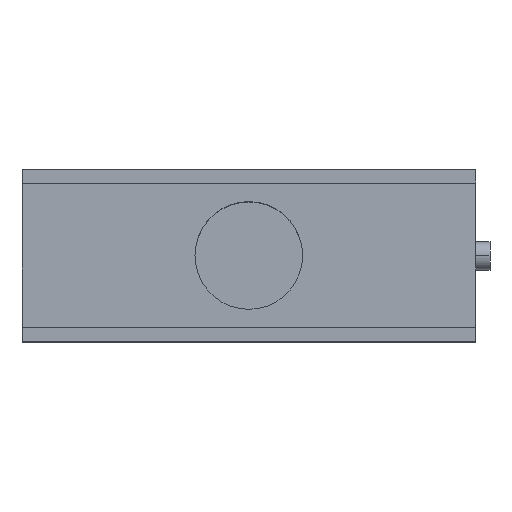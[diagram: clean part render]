
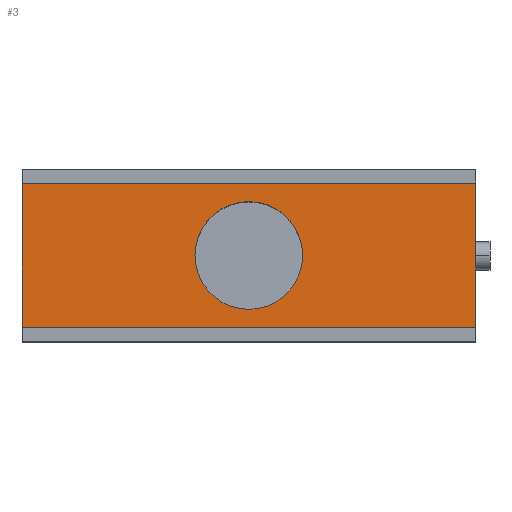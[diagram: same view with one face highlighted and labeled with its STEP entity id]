
A CAD part, top view. The second image highlights one B-rep face of the part: STEP entity #3.
In plain terms, the highlighted planar face has unit normal (0, 0, 1).
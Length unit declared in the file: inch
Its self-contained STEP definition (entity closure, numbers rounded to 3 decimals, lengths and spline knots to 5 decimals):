
#3 = ADVANCED_FACE ( 'NONE', ( #202, #277 ), #275, .F. ) ;
#12 = ORIENTED_EDGE ( 'NONE', *, *, #65, .F. ) ;
#14 = EDGE_LOOP ( 'NONE', ( #152, #18, #12, #44 ) ) ;
#16 = EDGE_CURVE ( 'NONE', #183, #197, #356, .T. ) ;
#18 = ORIENTED_EDGE ( 'NONE', *, *, #39, .F. ) ;
#39 = EDGE_CURVE ( 'NONE', #164, #192, #346, .T. ) ;
#40 = EDGE_LOOP ( 'NONE', ( #43, #63 ) ) ;
#42 = EDGE_CURVE ( 'NONE', #61, #60, #280, .T. ) ;
#43 = ORIENTED_EDGE ( 'NONE', *, *, #16, .F. ) ;
#44 = ORIENTED_EDGE ( 'NONE', *, *, #42, .T. ) ;
#49 = EDGE_CURVE ( 'NONE', #60, #192, #319, .T. ) ;
#60 = VERTEX_POINT ( 'NONE', #496 ) ;
#61 = VERTEX_POINT ( 'NONE', #499 ) ;
#63 = ORIENTED_EDGE ( 'NONE', *, *, #188, .F. ) ;
#65 = EDGE_CURVE ( 'NONE', #61, #164, #396, .T. ) ;
#152 = ORIENTED_EDGE ( 'NONE', *, *, #49, .T. ) ;
#164 = VERTEX_POINT ( 'NONE', #813 ) ;
#183 = VERTEX_POINT ( 'NONE', #714 ) ;
#188 = EDGE_CURVE ( 'NONE', #197, #183, #711, .T. ) ;
#192 = VERTEX_POINT ( 'NONE', #746 ) ;
#197 = VERTEX_POINT ( 'NONE', #790 ) ;
#202 = FACE_OUTER_BOUND ( 'NONE', #14, .T. ) ;
#275 = PLANE ( 'NONE',  #276 ) ;
#276 = AXIS2_PLACEMENT_3D ( 'NONE', #310, #309, #308 ) ;
#277 = FACE_BOUND ( 'NONE', #40, .T. ) ;
#278 = VECTOR ( 'NONE', #368, 39.37008 ) ;
#279 = CARTESIAN_POINT ( 'NONE',  ( 0., 1.25, 5.5 ) ) ;
#280 = LINE ( 'NONE', #279, #278 ) ;
#308 = DIRECTION ( 'NONE',  ( -1., 0., 0. ) ) ;
#309 = DIRECTION ( 'NONE',  ( 0., 0., -1. ) ) ;
#310 = CARTESIAN_POINT ( 'NONE',  ( -3.29752, 1.25, 5.5 ) ) ;
#316 = DIRECTION ( 'NONE',  ( 1., 0., 0. ) ) ;
#317 = VECTOR ( 'NONE', #316, 39.37008 ) ;
#318 = CARTESIAN_POINT ( 'NONE',  ( -3.29752, 0., 5.5 ) ) ;
#319 = LINE ( 'NONE', #318, #317 ) ;
#343 = DIRECTION ( 'NONE',  ( 0., -1., 0. ) ) ;
#344 = VECTOR ( 'NONE', #343, 39.37008 ) ;
#345 = CARTESIAN_POINT ( 'NONE',  ( 3.95, 1.25, 5.5 ) ) ;
#346 = LINE ( 'NONE', #345, #344 ) ;
#352 = DIRECTION ( 'NONE',  ( 1., 0., 0. ) ) ;
#353 = DIRECTION ( 'NONE',  ( 0., 0., 1. ) ) ;
#354 = CARTESIAN_POINT ( 'NONE',  ( 1.975, 0.625, 5.5 ) ) ;
#355 = AXIS2_PLACEMENT_3D ( 'NONE', #354, #353, #352 ) ;
#356 = CIRCLE ( 'NONE', #355, 0.46875 ) ;
#368 = DIRECTION ( 'NONE',  ( 0., -1., 0. ) ) ;
#382 = CARTESIAN_POINT ( 'NONE',  ( -3.29752, 1.25, 5.5 ) ) ;
#396 = LINE ( 'NONE', #382, #423 ) ;
#422 = DIRECTION ( 'NONE',  ( 1., 0., 0. ) ) ;
#423 = VECTOR ( 'NONE', #422, 39.37008 ) ;
#496 = CARTESIAN_POINT ( 'NONE',  ( 0., 0., 5.5 ) ) ;
#499 = CARTESIAN_POINT ( 'NONE',  ( 0., 1.25, 5.5 ) ) ;
#710 = AXIS2_PLACEMENT_3D ( 'NONE', #756, #755, #754 ) ;
#711 = CIRCLE ( 'NONE', #710, 0.46875 ) ;
#714 = CARTESIAN_POINT ( 'NONE',  ( 2.44375, 0.625, 5.5 ) ) ;
#746 = CARTESIAN_POINT ( 'NONE',  ( 3.95, 0., 5.5 ) ) ;
#754 = DIRECTION ( 'NONE',  ( 1., 0., 0. ) ) ;
#755 = DIRECTION ( 'NONE',  ( 0., 0., 1. ) ) ;
#756 = CARTESIAN_POINT ( 'NONE',  ( 1.975, 0.625, 5.5 ) ) ;
#790 = CARTESIAN_POINT ( 'NONE',  ( 1.50625, 0.625, 5.5 ) ) ;
#813 = CARTESIAN_POINT ( 'NONE',  ( 3.95, 1.25, 5.5 ) ) ;
